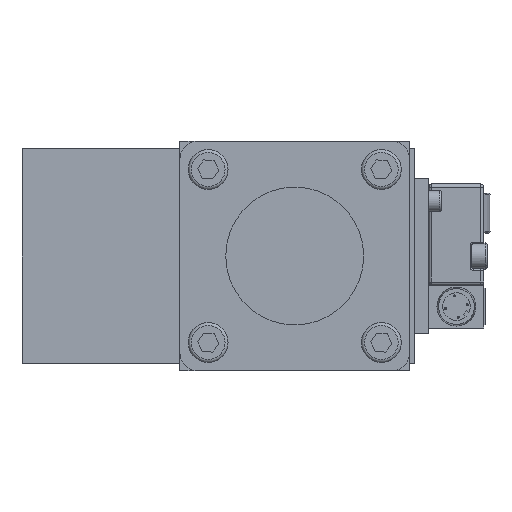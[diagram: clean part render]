
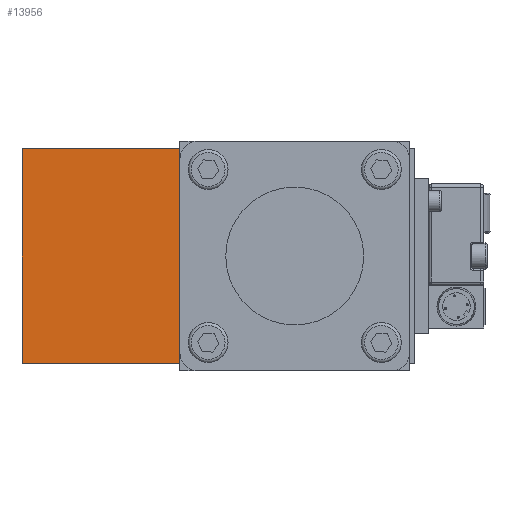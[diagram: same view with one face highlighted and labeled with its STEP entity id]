
A CAD part, front view. The second image highlights one B-rep face of the part: STEP entity #13956.
In plain terms, the highlighted planar face has unit normal (0, -1, 0).
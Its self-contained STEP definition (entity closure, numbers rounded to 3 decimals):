
#1189=PLANE('',#15432);
#2020=FACE_OUTER_BOUND('',#3168,.T.);
#3168=EDGE_LOOP('',(#12870,#12871,#12872,#12873));
#3916=LINE('',#19868,#4944);
#3931=LINE('',#19916,#4959);
#4817=LINE('',#29320,#5845);
#4818=LINE('',#29323,#5846);
#4944=VECTOR('',#15841,51.5);
#4959=VECTOR('',#15878,51.5);
#5845=VECTOR('',#19362,70.);
#5846=VECTOR('',#19367,70.);
#5996=VERTEX_POINT('',#19865);
#5997=VERTEX_POINT('',#19867);
#6018=VERTEX_POINT('',#19913);
#6019=VERTEX_POINT('',#19915);
#7394=EDGE_CURVE('',#5996,#5997,#3916,.T.);
#7418=EDGE_CURVE('',#6019,#6018,#3931,.T.);
#9087=EDGE_CURVE('',#5996,#6019,#4817,.T.);
#9088=EDGE_CURVE('',#5997,#6018,#4818,.T.);
#12870=ORIENTED_EDGE('',*,*,#9088,.F.);
#12871=ORIENTED_EDGE('',*,*,#7394,.F.);
#12872=ORIENTED_EDGE('',*,*,#9087,.T.);
#12873=ORIENTED_EDGE('',*,*,#7418,.T.);
#13956=ADVANCED_FACE('',(#2020),#1189,.T.);
#15432=AXIS2_PLACEMENT_3D('',#29322,#19365,#19366);
#15841=DIRECTION('',(-1.,0.,0.));
#15878=DIRECTION('',(-1.,0.,0.));
#19362=DIRECTION('',(0.,0.,1.));
#19365=DIRECTION('center_axis',(0.,-1.,0.));
#19366=DIRECTION('ref_axis',(0.,0.,-1.));
#19367=DIRECTION('',(0.,0.,1.));
#19865=CARTESIAN_POINT('',(51.5,0.,-35.));
#19867=CARTESIAN_POINT('',(0.,0.,-35.));
#19868=CARTESIAN_POINT('',(51.5,0.,-35.));
#19913=CARTESIAN_POINT('',(0.,0.,35.));
#19915=CARTESIAN_POINT('',(51.5,0.,35.));
#19916=CARTESIAN_POINT('',(51.5,0.,35.));
#29320=CARTESIAN_POINT('',(51.5,0.,-35.));
#29322=CARTESIAN_POINT('Origin',(109.,0.,0.));
#29323=CARTESIAN_POINT('',(0.,0.,-35.));
